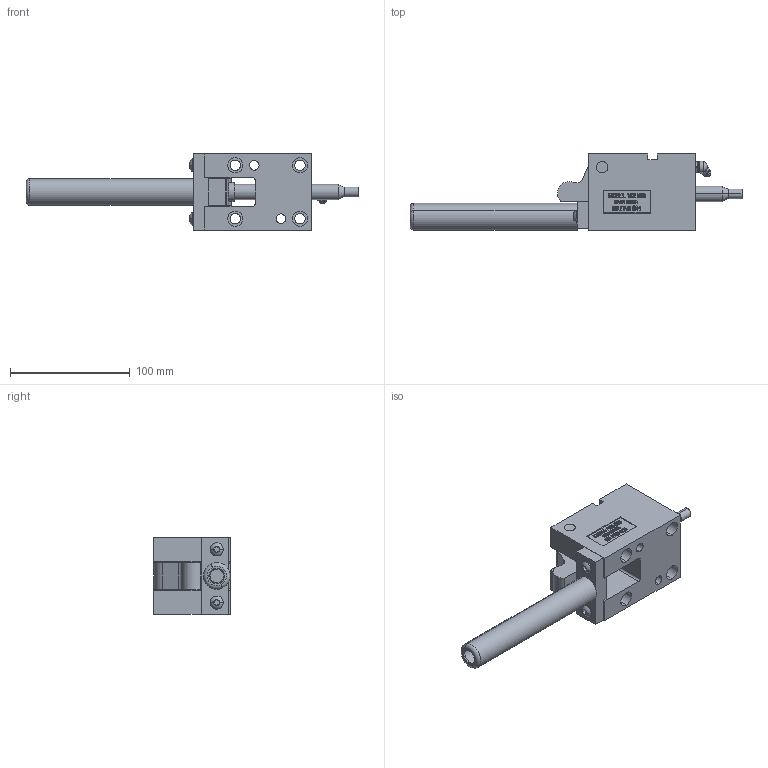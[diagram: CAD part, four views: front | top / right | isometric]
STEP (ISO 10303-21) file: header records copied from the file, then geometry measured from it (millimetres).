
FILE_DESCRIPTION (( 'STEP AP214' ), '1' );
FILE_NAME ('TOL50045-C.STEP', '2014-01-05T22:42:39', ( 'user' ), ( '' ), 'SwSTEP 2.0', 'SolidWorks 2009', '' );
FILE_SCHEMA (( 'AUTOMOTIVE_DESIGN' ));
Length unit declared in the file: inch
Products named in the file (10): O-500-POINT; 500-O-STRAP; OL500-CAGE; OL500-PUNCH; GREASE ZERK; 500 PIVOT PIN; 500-OFFSET TRIGGER; 1-4 SCREW; TOL500-BODY; TOL50045-C
Assembly tree (10 placements, depth 2):
  TOL50045-C
    TOL500-BODY
    1-4 SCREW  x2
    GREASE ZERK
    500-O-STRAP
    O-500-POINT
    500-OFFSET TRIGGER
    OL500-CAGE
    500 PIVOT PIN
    OL500-PUNCH
Bounding box: 276.89 x 63.5 x 63.5 mm (x, y, z)
Volume: 324543.7 mm3; surface area: 87103.3 mm2
Topology: 10 solids, 10 shells, 582 faces, 1496 edges, 984 vertices
Faces by surface type: plane 340, bspline 96, cylinder 94, cone 26, torus 22, sphere 4
Entity records: 23316 total; most frequent: CARTESIAN_POINT 9770, ORIENTED_EDGE 2904, DIRECTION 2360, EDGE_CURVE 1452, VERTEX_POINT 958, VECTOR 950, LINE 950, AXIS2_PLACEMENT_3D 705
